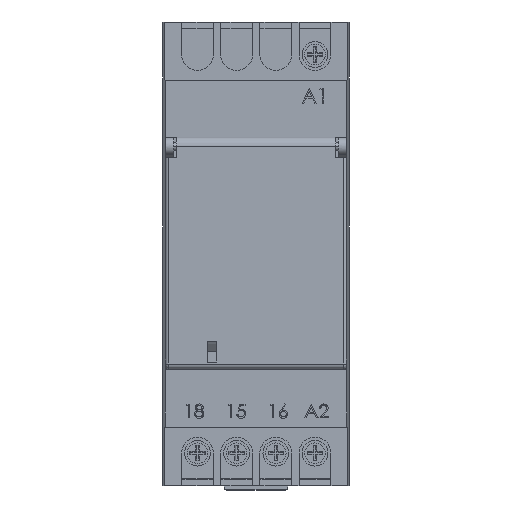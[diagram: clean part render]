
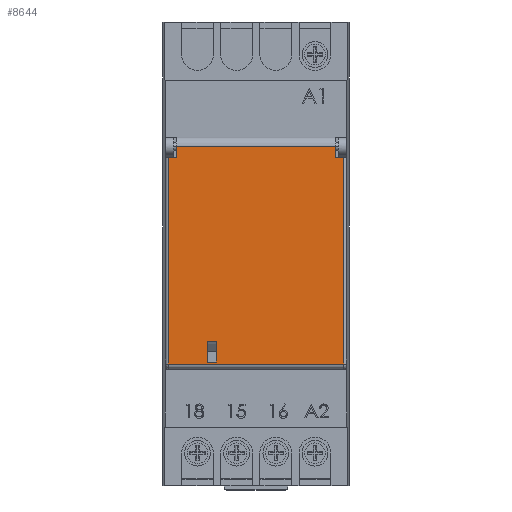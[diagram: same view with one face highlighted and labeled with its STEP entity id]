
A CAD part, top view. The second image highlights one B-rep face of the part: STEP entity #8644.
In plain terms, the highlighted planar face has unit normal (0, 0, 1).
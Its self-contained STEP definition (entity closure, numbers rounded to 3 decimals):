
#4289 = EDGE_CURVE ( 'NONE', #8436, #8437, #13988, .T. ) ;
#4313 = EDGE_CURVE ( 'NONE', #8434, #8489, #14068, .T. ) ;
#4314 = EDGE_CURVE ( 'NONE', #8166, #8144, #14071, .T. ) ;
#4315 = EDGE_CURVE ( 'NONE', #8489, #8431, #14074, .T. ) ;
#4317 = EDGE_CURVE ( 'NONE', #8431, #8432, #14080, .T. ) ;
#4318 = EDGE_CURVE ( 'NONE', #8432, #8434, #14083, .T. ) ;
#4320 = EDGE_CURVE ( 'NONE', #8132, #8437, #14089, .T. ) ;
#4321 = EDGE_CURVE ( 'NONE', #8436, #8440, #14092, .T. ) ;
#4322 = EDGE_CURVE ( 'NONE', #8304, #8132, #14095, .T. ) ;
#4366 = EDGE_CURVE ( 'NONE', #8440, #8435, #14292, .T. ) ;
#4411 = EDGE_CURVE ( 'NONE', #8144, #8304, #14559, .T. ) ;
#4412 = EDGE_CURVE ( 'NONE', #8435, #8166, #14566, .T. ) ;
#5681 = FACE_BOUND ( 'NONE', #6838, .T. ) ;
#5713 = FACE_OUTER_BOUND ( 'NONE', #6825, .T. ) ;
#5757 = AXIS2_PLACEMENT_3D ( 'NONE', #19237, #19238, #19239 ) ;
#6050 = VECTOR ( 'NONE', #14570, 1000. ) ;
#6109 = VECTOR ( 'NONE', #14563, 1000. ) ;
#6825 = EDGE_LOOP ( 'NONE', ( #7846, #7850, #7847, #7848, #7849, #7851, #7852, #7854 ) ) ;
#6838 = EDGE_LOOP ( 'NONE', ( #7833, #7845, #7832, #7844 ) ) ;
#7832 = ORIENTED_EDGE ( 'NONE', *, *, #4315, .F. ) ;
#7833 = ORIENTED_EDGE ( 'NONE', *, *, #4318, .F. ) ;
#7844 = ORIENTED_EDGE ( 'NONE', *, *, #4313, .F. ) ;
#7845 = ORIENTED_EDGE ( 'NONE', *, *, #4317, .F. ) ;
#7846 = ORIENTED_EDGE ( 'NONE', *, *, #4412, .T. ) ;
#7847 = ORIENTED_EDGE ( 'NONE', *, *, #4411, .T. ) ;
#7848 = ORIENTED_EDGE ( 'NONE', *, *, #4322, .T. ) ;
#7849 = ORIENTED_EDGE ( 'NONE', *, *, #4320, .T. ) ;
#7850 = ORIENTED_EDGE ( 'NONE', *, *, #4314, .T. ) ;
#7851 = ORIENTED_EDGE ( 'NONE', *, *, #4289, .F. ) ;
#7852 = ORIENTED_EDGE ( 'NONE', *, *, #4321, .T. ) ;
#7854 = ORIENTED_EDGE ( 'NONE', *, *, #4366, .T. ) ;
#8132 = VERTEX_POINT ( 'NONE', #17162 ) ;
#8144 = VERTEX_POINT ( 'NONE', #17174 ) ;
#8166 = VERTEX_POINT ( 'NONE', #17196 ) ;
#8304 = VERTEX_POINT ( 'NONE', #17334 ) ;
#8431 = VERTEX_POINT ( 'NONE', #18826 ) ;
#8432 = VERTEX_POINT ( 'NONE', #18828 ) ;
#8434 = VERTEX_POINT ( 'NONE', #18832 ) ;
#8435 = VERTEX_POINT ( 'NONE', #18834 ) ;
#8436 = VERTEX_POINT ( 'NONE', #18836 ) ;
#8437 = VERTEX_POINT ( 'NONE', #18838 ) ;
#8440 = VERTEX_POINT ( 'NONE', #18844 ) ;
#8489 = VERTEX_POINT ( 'NONE', #18942 ) ;
#8644 = ADVANCED_FACE ( 'NONE', ( #5681, #5713 ), #19236, .F. ) ;
#10277 = VECTOR ( 'NONE', #14296, 1000. ) ;
#10332 = VECTOR ( 'NONE', #14094, 1000. ) ;
#10338 = VECTOR ( 'NONE', #14091, 1000. ) ;
#10339 = VECTOR ( 'NONE', #14085, 1000. ) ;
#10343 = VECTOR ( 'NONE', #14097, 1000. ) ;
#10345 = VECTOR ( 'NONE', #14082, 1000. ) ;
#10347 = VECTOR ( 'NONE', #14076, 1000. ) ;
#10348 = VECTOR ( 'NONE', #14073, 1000. ) ;
#10349 = VECTOR ( 'NONE', #14070, 1000. ) ;
#10432 = VECTOR ( 'NONE', #13990, 1000. ) ;
#13988 = LINE ( 'NONE', #13989, #10432 ) ;
#13989 = CARTESIAN_POINT ( 'NONE',  ( 15.455, 20.739, 32.639 ) ) ;
#13990 = DIRECTION ( 'NONE',  ( 0., -1., 0. ) ) ;
#14068 = LINE ( 'NONE', #14069, #10349 ) ;
#14069 = CARTESIAN_POINT ( 'NONE',  ( -7.673, -21.062, 32.639 ) ) ;
#14070 = DIRECTION ( 'NONE',  ( 0., 1., 0. ) ) ;
#14071 = LINE ( 'NONE', #14072, #10348 ) ;
#14072 = CARTESIAN_POINT ( 'NONE',  ( -17.073, 20.739, 32.639 ) ) ;
#14073 = DIRECTION ( 'NONE',  ( 0., -1., 0. ) ) ;
#14074 = LINE ( 'NONE', #14075, #10347 ) ;
#14075 = CARTESIAN_POINT ( 'NONE',  ( -9.473, -17.162, 32.639 ) ) ;
#14076 = DIRECTION ( 'NONE',  ( -1., 0., 0. ) ) ;
#14080 = LINE ( 'NONE', #14081, #10345 ) ;
#14081 = CARTESIAN_POINT ( 'NONE',  ( -9.473, -21.062, 32.639 ) ) ;
#14082 = DIRECTION ( 'NONE',  ( 0., -1., 0. ) ) ;
#14083 = LINE ( 'NONE', #14084, #10339 ) ;
#14084 = CARTESIAN_POINT ( 'NONE',  ( -9.473, -21.062, 32.639 ) ) ;
#14085 = DIRECTION ( 'NONE',  ( 1., 0., 0. ) ) ;
#14089 = LINE ( 'NONE', #14090, #10338 ) ;
#14090 = CARTESIAN_POINT ( 'NONE',  ( 17.573, 18.589, 32.639 ) ) ;
#14091 = DIRECTION ( 'NONE',  ( -1., 0., 0. ) ) ;
#14092 = LINE ( 'NONE', #14093, #10332 ) ;
#14093 = CARTESIAN_POINT ( 'NONE',  ( 19.507, 20.739, 32.639 ) ) ;
#14094 = DIRECTION ( 'NONE',  ( -1., 0., 0. ) ) ;
#14095 = LINE ( 'NONE', #14096, #10343 ) ;
#14096 = CARTESIAN_POINT ( 'NONE',  ( 17.073, 18.589, 32.639 ) ) ;
#14097 = DIRECTION ( 'NONE',  ( 0., 1., 0. ) ) ;
#14292 = LINE ( 'NONE', #14293, #10277 ) ;
#14293 = CARTESIAN_POINT ( 'NONE',  ( -15.455, 20.739, 32.639 ) ) ;
#14296 = DIRECTION ( 'NONE',  ( 0., -1., 0. ) ) ;
#14559 = LINE ( 'NONE', #14562, #6109 ) ;
#14562 = CARTESIAN_POINT ( 'NONE',  ( 19.507, -21.45, 32.639 ) ) ;
#14563 = DIRECTION ( 'NONE',  ( 1., 0., 0. ) ) ;
#14566 = LINE ( 'NONE', #14567, #6050 ) ;
#14567 = CARTESIAN_POINT ( 'NONE',  ( 17.573, 18.589, 32.639 ) ) ;
#14570 = DIRECTION ( 'NONE',  ( -1., 0., 0. ) ) ;
#17162 = CARTESIAN_POINT ( 'NONE',  ( 17.073, 18.589, 32.639 ) ) ;
#17174 = CARTESIAN_POINT ( 'NONE',  ( -17.073, -21.45, 32.639 ) ) ;
#17196 = CARTESIAN_POINT ( 'NONE',  ( -17.073, 18.589, 32.639 ) ) ;
#17334 = CARTESIAN_POINT ( 'NONE',  ( 17.073, -21.45, 32.639 ) ) ;
#18826 = CARTESIAN_POINT ( 'NONE',  ( -9.473, -17.162, 32.639 ) ) ;
#18828 = CARTESIAN_POINT ( 'NONE',  ( -9.473, -21.062, 32.639 ) ) ;
#18832 = CARTESIAN_POINT ( 'NONE',  ( -7.673, -21.062, 32.639 ) ) ;
#18834 = CARTESIAN_POINT ( 'NONE',  ( -15.455, 18.589, 32.639 ) ) ;
#18836 = CARTESIAN_POINT ( 'NONE',  ( 15.455, 20.739, 32.639 ) ) ;
#18838 = CARTESIAN_POINT ( 'NONE',  ( 15.455, 18.589, 32.639 ) ) ;
#18844 = CARTESIAN_POINT ( 'NONE',  ( -15.455, 20.739, 32.639 ) ) ;
#18942 = CARTESIAN_POINT ( 'NONE',  ( -7.673, -17.162, 32.639 ) ) ;
#19236 = PLANE ( 'NONE',  #5757 ) ;
#19237 = CARTESIAN_POINT ( 'NONE',  ( 19.507, 20.739, 32.639 ) ) ;
#19238 = DIRECTION ( 'NONE',  ( 0., 0., -1. ) ) ;
#19239 = DIRECTION ( 'NONE',  ( 0., 1., 0. ) ) ;
